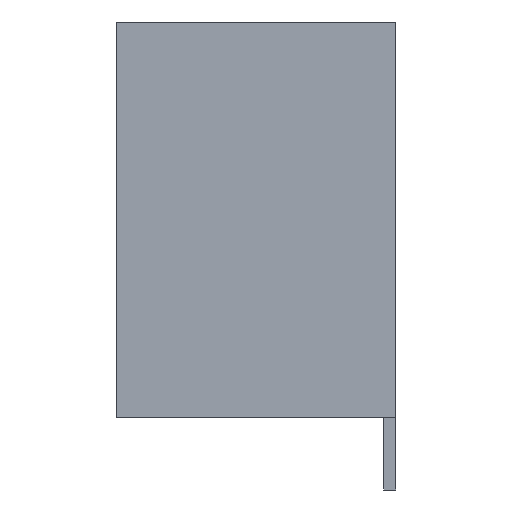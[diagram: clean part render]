
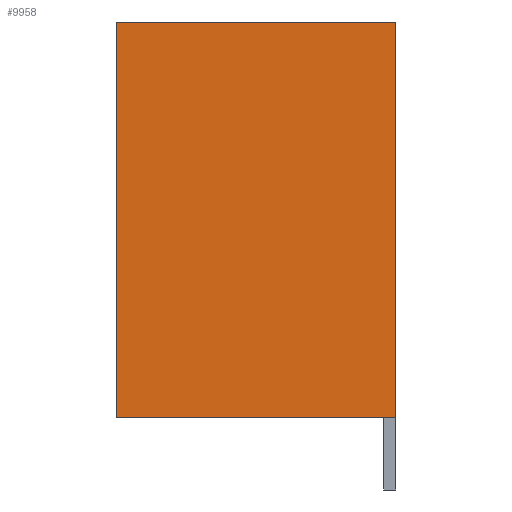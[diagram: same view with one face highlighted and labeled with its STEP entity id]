
A CAD part, left-side view. The second image highlights one B-rep face of the part: STEP entity #9958.
In plain terms, the highlighted planar face has unit normal (-1, 0, 0).
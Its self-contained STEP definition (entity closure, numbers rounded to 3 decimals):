
#1419 = DIRECTION ( 'NONE',  ( 0., -1., 0. ) ) ;
#1420 = VECTOR ( 'NONE', #1419, 1000. ) ;
#1421 = CARTESIAN_POINT ( 'NONE',  ( -13.09, 0., 0. ) ) ;
#1422 = LINE ( 'NONE', #1421, #1420 ) ;
#1432 = CARTESIAN_POINT ( 'NONE',  ( -13.09, 4.6, 0. ) ) ;
#4295 = CARTESIAN_POINT ( 'NONE',  ( -13.09, 4.6, -6.5 ) ) ;
#4296 = DIRECTION ( 'NONE',  ( 0., -1., 0. ) ) ;
#4297 = VECTOR ( 'NONE', #4296, 1000. ) ;
#4298 = CARTESIAN_POINT ( 'NONE',  ( -13.09, 0., -6.5 ) ) ;
#4299 = LINE ( 'NONE', #4298, #4297 ) ;
#5034 = DIRECTION ( 'NONE',  ( 0., 0., 1. ) ) ;
#5035 = VECTOR ( 'NONE', #5034, 1000. ) ;
#5036 = CARTESIAN_POINT ( 'NONE',  ( -13.09, 0., -6.5 ) ) ;
#5037 = LINE ( 'NONE', #5036, #5035 ) ;
#5833 = CARTESIAN_POINT ( 'NONE',  ( -13.09, 0., -6.5 ) ) ;
#5835 = CARTESIAN_POINT ( 'NONE',  ( -13.09, 0., 0. ) ) ;
#7792 = DIRECTION ( 'NONE',  ( 0., 0., 1. ) ) ;
#7793 = VECTOR ( 'NONE', #7792, 1000. ) ;
#7794 = CARTESIAN_POINT ( 'NONE',  ( -13.09, 4.6, -6.5 ) ) ;
#7795 = LINE ( 'NONE', #7794, #7793 ) ;
#7796 = DIRECTION ( 'NONE',  ( 0., 0., 1. ) ) ;
#7797 = DIRECTION ( 'NONE',  ( -1., 0., 0. ) ) ;
#7798 = CARTESIAN_POINT ( 'NONE',  ( -13.09, 0., -6.5 ) ) ;
#7799 = AXIS2_PLACEMENT_3D ( 'NONE', #7798, #7797, #7796 ) ;
#7800 = PLANE ( 'NONE',  #7799 ) ;
#7806 = FACE_OUTER_BOUND ( 'NONE', #9959, .T. ) ;
#9407 = EDGE_CURVE ( 'NONE', #9623, #9622, #5037, .T. ) ;
#9622 = VERTEX_POINT ( 'NONE', #5835 ) ;
#9623 = VERTEX_POINT ( 'NONE', #5833 ) ;
#9958 = ADVANCED_FACE ( 'NONE', ( #7806 ), #7800, .T. ) ;
#9959 = EDGE_LOOP ( 'NONE', ( #9960, #9961, #9963, #9964 ) ) ;
#9960 = ORIENTED_EDGE ( 'NONE', *, *, #11545, .F. ) ;
#9961 = ORIENTED_EDGE ( 'NONE', *, *, #9962, .F. ) ;
#9962 = EDGE_CURVE ( 'NONE', #11618, #11537, #7795, .T. ) ;
#9963 = ORIENTED_EDGE ( 'NONE', *, *, #11617, .T. ) ;
#9964 = ORIENTED_EDGE ( 'NONE', *, *, #9407, .T. ) ;
#11537 = VERTEX_POINT ( 'NONE', #1432 ) ;
#11545 = EDGE_CURVE ( 'NONE', #11537, #9622, #1422, .T. ) ;
#11617 = EDGE_CURVE ( 'NONE', #11618, #9623, #4299, .T. ) ;
#11618 = VERTEX_POINT ( 'NONE', #4295 ) ;
